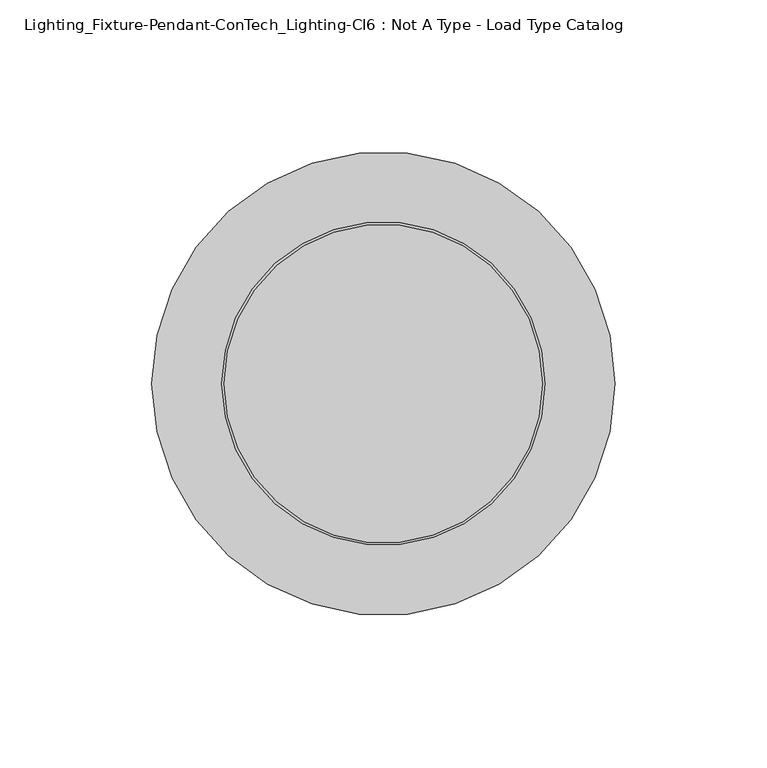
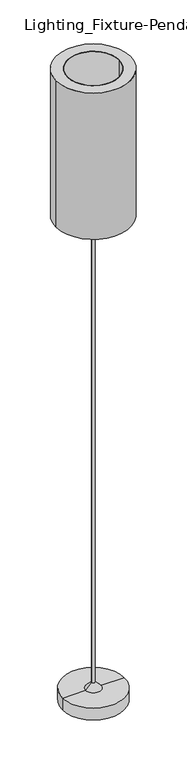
"""IFC4 building model written with IfcOpenShell, lengths in millimetres: light fixture geometry, Lighting_Fixture-Pendant-ConTech_Lighting-CI6 : Not A Type - Load Type Catalog."""

from ifc_helpers import new_model, si_unit, point, frame, origin, origin_2d, place, context, project, spatial, polyline, circle_curve, trimmed, segment, composite_curve, outline, extrude, source, transform, mapped, element, save
from ifc_brep_helpers import plane_surface, cylinder_surface, revolved_surface, advanced_brep


def lighting_fixture_pendant_contech_lighting_ci6_not_a_type_87ea05c9(model_context):
    return source(origin(), model_context, "Body", "SolidModel", [
        advanced_brep(
        [(12.2721073, 0.0, 1050.8), (-12.2721073, 0.0, 1050.8), (0.0, 0.0, 1050.8), (3.175, 0.0, 1038.1), (-3.175, 0.0, 1038.1), (3.175, 0.0, 38.1), (-3.175, 0.0, 38.1), (15.875, 0.0, 25.4), (-15.875, 0.0, 25.4), (63.5, 0.0, 25.4), (-63.5, 0.0, 25.4), (63.5, 0.0, 0.0), (-63.5, 0.0, 0.0), (0.0, 0.0, 0.0)],
        [
            (0, 1, circle_curve(frame((0.0, 0.0, 1050.8), z_axis=(0.0, 0.0, 1.0), x_axis=(-1.0, 0.0, 0.0)), 12.2721073)),
            (1, 2),
            (2, 0),
            (1, 0, circle_curve(frame((0.0, 0.0, 1050.8), z_axis=(0.0, 0.0, 1.0), x_axis=(-1.0, 0.0, 0.0)), 12.2721073)),
            (3, 4, circle_curve(frame((0.0, 0.0, 1038.1), z_axis=(0.0, 0.0, 1.0), x_axis=(-1.0, 0.0, 0.0)), 3.175)),
            (4, 1),
            (0, 3),
            (4, 3, circle_curve(frame((0.0, 0.0, 1038.1), z_axis=(0.0, 0.0, 1.0), x_axis=(-1.0, 0.0, 0.0)), 3.175)),
            (5, 6, circle_curve(frame((0.0, 0.0, 38.1), z_axis=(0.0, 0.0, 1.0), x_axis=(-1.0, 0.0, 0.0)), 3.175)),
            (6, 4),
            (3, 5),
            (6, 5, circle_curve(frame((0.0, 0.0, 38.1), z_axis=(0.0, 0.0, 1.0), x_axis=(-1.0, 0.0, 0.0)), 3.175)),
            (7, 8, circle_curve(frame((0.0, 0.0, 25.4), z_axis=(0.0, 0.0, 1.0), x_axis=(-1.0, 0.0, 0.0)), 15.875)),
            (8, 6),
            (5, 7),
            (8, 7, circle_curve(frame((0.0, 0.0, 25.4), z_axis=(0.0, 0.0, 1.0), x_axis=(-1.0, 0.0, 0.0)), 15.875)),
            (9, 10, circle_curve(frame((0.0, 0.0, 25.4), z_axis=(0.0, 0.0, 1.0), x_axis=(-1.0, 0.0, 0.0)), 63.5)),
            (10, 8),
            (7, 9),
            (10, 9, circle_curve(frame((0.0, 0.0, 25.4), z_axis=(0.0, 0.0, 1.0), x_axis=(-1.0, 0.0, 0.0)), 63.5)),
            (11, 12, circle_curve(frame((0.0, 0.0, 0.0), z_axis=(0.0, 0.0, 1.0), x_axis=(-1.0, 0.0, 0.0)), 63.5)),
            (12, 10),
            (9, 11),
            (12, 11, circle_curve(frame((0.0, 0.0, 0.0), z_axis=(0.0, 0.0, 1.0), x_axis=(-1.0, 0.0, 0.0)), 63.5)),
            (13, 12),
            (11, 13),
        ],
        [
            plane_surface(frame((0.0, 0.0, 1050.8), z_axis=(0.0, 0.0, 1.0), x_axis=(-1.0, 0.0, 0.0))),
            revolved_surface(polyline([(-12.2721073, 0.0, 1050.8), (-3.175, 0.0, 1038.1)]), (0.0, 0.0, 0.0), (0.0, 0.0, -1.0)),
            cylinder_surface(frame((0.0, 0.0, 0.0), z_axis=(0.0, 0.0, -1.0), x_axis=(-1.0, 0.0, 0.0)), 3.175),
            revolved_surface(polyline([(-3.175, 0.0, 38.1), (-15.875, 0.0, 25.4)]), (0.0, 0.0, 0.0), (0.0, 0.0, -1.0)),
            plane_surface(frame((0.0, 0.0, 25.4), z_axis=(0.0, 0.0, 1.0), x_axis=(-1.0, 0.0, 0.0))),
            cylinder_surface(frame((0.0, 0.0, 0.0), z_axis=(0.0, 0.0, -1.0), x_axis=(-1.0, 0.0, 0.0)), 63.5),
            plane_surface(frame((0.0, 0.0, 0.0), z_axis=(0.0, 0.0, -1.0), x_axis=(-1.0, 0.0, 0.0))),
        ],
        [
            (0, [[1, 2, 3]]),
            (0, [[4, -3, -2]]),
            (1, [[5, 6, -1, 7]]),
            (1, [[8, -7, -4, -6]]),
            (2, [[9, 10, -5, 11]]),
            (2, [[12, -11, -8, -10]]),
            (3, [[13, 14, -9, 15]]),
            (3, [[16, -15, -12, -14]]),
            (4, [[17, 18, -13, 19]]),
            (4, [[20, -19, -16, -18]]),
            (5, [[21, 22, -17, 23]]),
            (5, [[24, -23, -20, -22]]),
            (6, [[25, -21, 26]]),
            (6, [[-26, -24, -25]]),
        ],
    ),
        extrude(outline(composite_curve([segment(trimmed(circle_curve(origin_2d(), 53.18125), [point((-53.18125, 0.0))], [point((53.18125, 0.0))], False, "CARTESIAN"), True, "CONTINUOUS"), segment(trimmed(circle_curve(origin_2d(), 53.18125), [point((53.18125, 0.0))], [point((-53.18125, 0.0))], False, "CARTESIAN"), True, "CONTINUOUS")], self_intersect=False)), frame((0.0, 0.0, 1050.8), z_axis=(0.0, 0.0, 1.0), x_axis=(1.0, 0.0, 0.0)), (0.0, 0.0, 1.0), 203.2),
        extrude(outline(composite_curve([segment(trimmed(circle_curve(origin_2d(), 53.18125), [point((53.18125, 0.0))], [point((-53.18125, 0.0))], False, "CARTESIAN"), True, "CONTINUOUS"), segment(trimmed(circle_curve(origin_2d(), 53.18125), [point((-53.18125, 0.0))], [point((53.18125, 0.0))], False, "CARTESIAN"), True, "CONTINUOUS")], self_intersect=False), holes=[composite_curve([segment(trimmed(circle_curve(origin_2d(), 52.3875), [point((-52.3875, 0.0))], [point((52.3875, 0.0))], True, "CARTESIAN"), True, "CONTINUOUS"), segment(trimmed(circle_curve(origin_2d(), 52.3875), [point((52.3875, 0.0))], [point((-52.3875, 0.0))], True, "CARTESIAN"), True, "CONTINUOUS")], self_intersect=False)]), frame((0.0, 0.0, 1266.7), z_axis=(0.0, 0.0, 1.0), x_axis=(1.0, 0.0, 0.0)), (0.0, 0.0, 1.0), 101.6),
        extrude(outline(composite_curve([segment(trimmed(circle_curve(origin_2d(), 52.3875), [point((52.3875, 0.0))], [point((-52.3875, 0.0))], False, "CARTESIAN"), True, "CONTINUOUS"), segment(trimmed(circle_curve(origin_2d(), 52.3875), [point((-52.3875, 0.0))], [point((52.3875, 0.0))], False, "CARTESIAN"), True, "CONTINUOUS")], self_intersect=False)), frame((0.0, 0.0, 1254.0), z_axis=(0.0, 0.0, 1.0), x_axis=(1.0, 0.0, 0.0)), (0.0, 0.0, 1.0), 12.7),
        extrude(outline(composite_curve([segment(trimmed(circle_curve(origin_2d(), 76.2), [point((-76.2, 0.0))], [point((76.2, 0.0))], False, "CARTESIAN"), True, "CONTINUOUS"), segment(trimmed(circle_curve(origin_2d(), 76.2), [point((76.2, 0.0))], [point((-76.2, 0.0))], False, "CARTESIAN"), True, "CONTINUOUS")], self_intersect=False), holes=[composite_curve([segment(trimmed(circle_curve(origin_2d(), 53.18125), [point((53.18125, 0.0))], [point((-53.18125, 0.0))], True, "CARTESIAN"), True, "CONTINUOUS"), segment(trimmed(circle_curve(origin_2d(), 53.18125), [point((-53.18125, 0.0))], [point((53.18125, 0.0))], True, "CARTESIAN"), True, "CONTINUOUS")], self_intersect=False)]), frame((0.0, 0.0, 1050.8), z_axis=(0.0, 0.0, 1.0), x_axis=(1.0, 0.0, 0.0)), (0.0, 0.0, 1.0), 317.5),
    ])


if __name__ == "__main__":
    model = new_model("IFC4")
    model_context = context("Model", 3, world=origin())
    ifc_project = project(units=[si_unit("LENGTHUNIT", "METRE", prefix="MILLI")], contexts=[model_context])
    site = spatial("IfcSite", under=ifc_project)
    building = spatial("IfcBuilding", under=site)
    placement = place(None, origin())
    lighting_fixture_pendant_contech_lighting_ci6_not_a_type_shape = lighting_fixture_pendant_contech_lighting_ci6_not_a_type_87ea05c9(model_context)
    element("IfcLightFixture", 1, ObjectType="Lighting_Fixture-Pendant-ConTech_Lighting-CI6 : Not A Type - Load Type Catalog", at=placement, inside=building, context=model_context, shape_type="MappedRepresentation", body=[
        mapped(lighting_fixture_pendant_contech_lighting_ci6_not_a_type_shape, transform((0.0, 0.0, 0.0), x_axis=(1.0, 0.0, 0.0), y_axis=(0.0, 1.0, 0.0), z_axis=(0.0, 0.0, 1.0))),
    ])
    save(model, "model.ifc")
